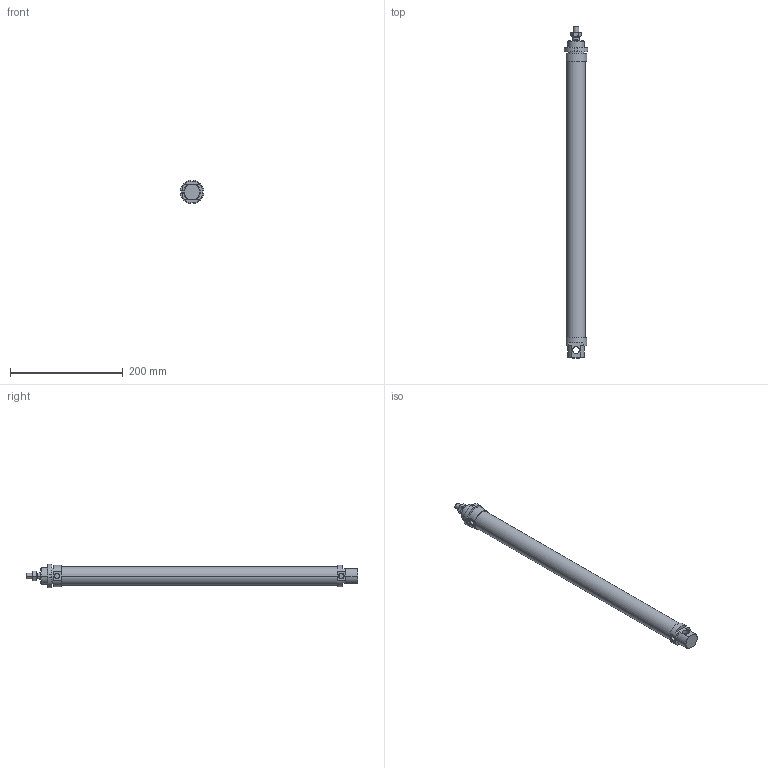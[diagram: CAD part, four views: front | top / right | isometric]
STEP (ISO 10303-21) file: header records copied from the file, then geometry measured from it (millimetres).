
FILE_DESCRIPTION((''),'2;1');
FILE_NAME('I:\DOC-EDP\Lib-3d\1200\CILINDRI\1280\1280_32_0450.stp','2003-04-07T19:05:37',('maffial1'),(''),'Autodesk Inventor (R) 6.0','Autodesk Inventor (R) 6.0','');
FILE_SCHEMA(('AUTOMOTIVE_DESIGN { 1 0 10303 214 1 1 1 1 }'));
Length unit declared in the file: millimetre
Products named in the file (5): 1280_32_0450; S1280_32_450; 1200_32_05; 1200_32_06; C1280_32_450
Assembly tree (4 placements, depth 2):
  1280_32_0450
    S1280_32_450
    1200_32_05
    1200_32_06
    C1280_32_450
Bounding box: 41.7 x 589 x 41.7 mm (x, y, z)
Volume: 500700.1 mm3; surface area: 104927 mm2
Topology: 4 solids, 4 shells, 122 faces, 286 edges, 180 vertices
Faces by surface type: plane 44, cone 32, cylinder 26, bspline 20
Entity records: 3831 total; most frequent: CARTESIAN_POINT 997, DIRECTION 582, ORIENTED_EDGE 572, EDGE_CURVE 286, AXIS2_PLACEMENT_3D 229, VERTEX_POINT 180, EDGE_LOOP 136, VECTOR 124
